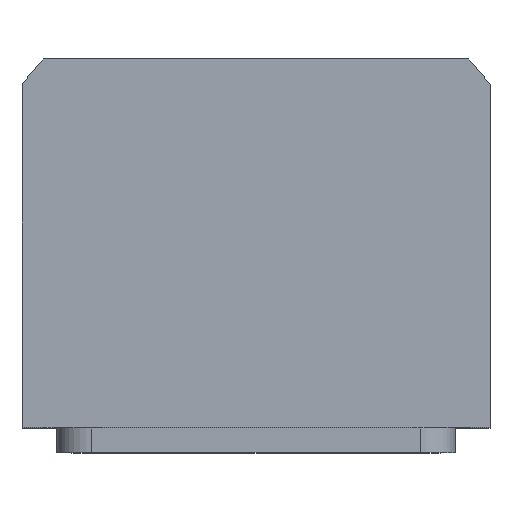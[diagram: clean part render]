
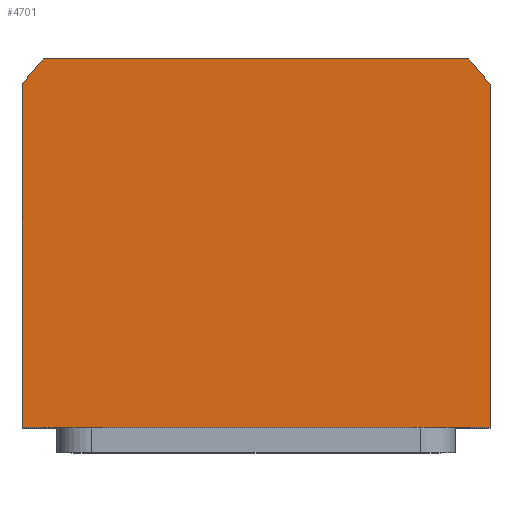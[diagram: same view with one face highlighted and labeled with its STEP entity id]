
A CAD part, top view. The second image highlights one B-rep face of the part: STEP entity #4701.
In plain terms, the highlighted planar face has unit normal (0, 0, 1).
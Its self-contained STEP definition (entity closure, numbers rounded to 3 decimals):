
#2291=PLANE('',#10373);
#2583=FACE_OUTER_BOUND('',#5485,.T.);
#2916=LINE('',#14931,#3692);
#2947=LINE('',#15621,#3723);
#2950=LINE('',#15630,#3726);
#2980=LINE('',#15718,#3756);
#3692=VECTOR('',#10845,1.);
#3723=VECTOR('',#10980,1.);
#3726=VECTOR('',#10987,1.);
#3756=VECTOR('',#11053,1.);
#4701=ADVANCED_FACE('',(#2583),#2291,.T.);
#5128=CIRCLE('',#10353,58.5);
#5136=CIRCLE('',#10368,58.5);
#5485=EDGE_LOOP('',(#6234,#6235,#6236,#6237,#6238,#6239));
#6234=ORIENTED_EDGE('',*,*,#9040,.T.);
#6235=ORIENTED_EDGE('',*,*,#9086,.T.);
#6236=ORIENTED_EDGE('',*,*,#9088,.T.);
#6237=ORIENTED_EDGE('',*,*,#9044,.T.);
#6238=ORIENTED_EDGE('',*,*,#9062,.T.);
#6239=ORIENTED_EDGE('',*,*,#8939,.T.);
#8153=VERTEX_POINT('',#14930);
#8154=VERTEX_POINT('',#14932);
#8246=VERTEX_POINT('',#15620);
#8250=VERTEX_POINT('',#15629);
#8251=VERTEX_POINT('',#15631);
#8280=VERTEX_POINT('',#15717);
#8939=EDGE_CURVE('',#8154,#8153,#2916,.T.);
#9040=EDGE_CURVE('',#8153,#8246,#2947,.T.);
#9044=EDGE_CURVE('',#8251,#8250,#2950,.T.);
#9062=EDGE_CURVE('',#8250,#8154,#5128,.T.);
#9086=EDGE_CURVE('',#8246,#8280,#2980,.T.);
#9088=EDGE_CURVE('',#8280,#8251,#5136,.T.);
#10353=AXIS2_PLACEMENT_3D('',#15665,#11011,#11012);
#10368=AXIS2_PLACEMENT_3D('',#15721,#11058,#11059);
#10373=AXIS2_PLACEMENT_3D('',#15726,#11068,#11069);
#10845=DIRECTION('',(0.,-1.,0.));
#10980=DIRECTION('',(1.,0.,0.));
#10987=DIRECTION('',(-1.,0.,0.));
#11011=DIRECTION('',(0.,0.,1.));
#11012=DIRECTION('',(1.,0.,0.));
#11053=DIRECTION('',(0.,1.,0.));
#11058=DIRECTION('',(0.,0.,1.));
#11059=DIRECTION('',(1.,0.,0.));
#11068=DIRECTION('',(0.,0.,1.));
#11069=DIRECTION('',(-1.,0.,0.));
#14930=CARTESIAN_POINT('',(-47.,-34.,55.));
#14931=CARTESIAN_POINT('',(-47.,-34.,55.));
#14932=CARTESIAN_POINT('',(-47.,34.832,55.));
#15620=CARTESIAN_POINT('',(47.,-34.,55.));
#15621=CARTESIAN_POINT('',(47.,-34.,55.));
#15629=CARTESIAN_POINT('',(-42.688,40.,55.));
#15630=CARTESIAN_POINT('',(-42.688,40.,55.));
#15631=CARTESIAN_POINT('',(42.688,40.,55.));
#15665=CARTESIAN_POINT('',(0.,0.,55.));
#15717=CARTESIAN_POINT('',(47.,34.832,55.));
#15718=CARTESIAN_POINT('',(47.,34.832,55.));
#15721=CARTESIAN_POINT('',(0.,0.,55.));
#15726=CARTESIAN_POINT('',(0.,0.,55.));
